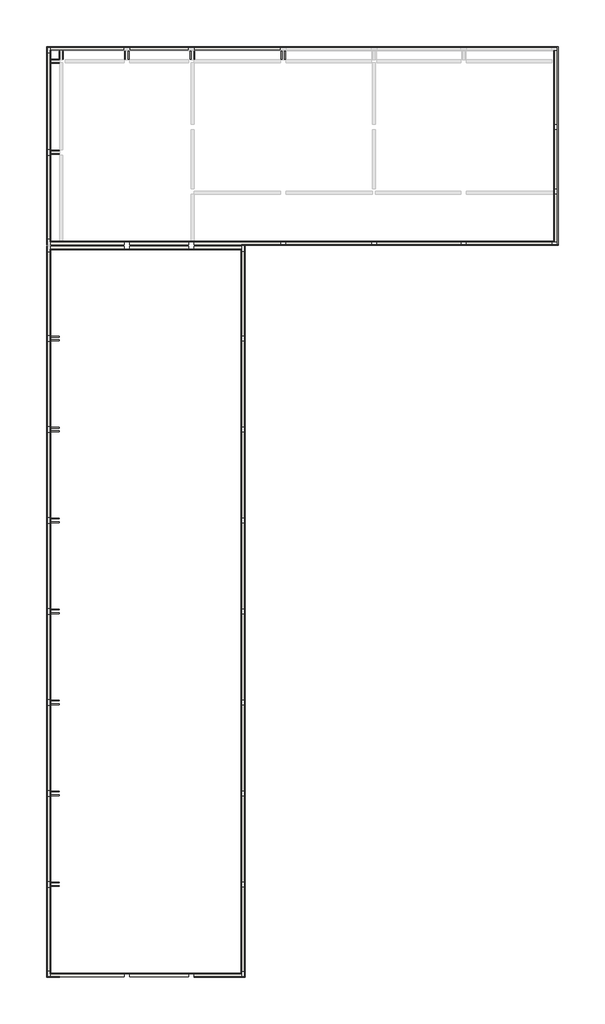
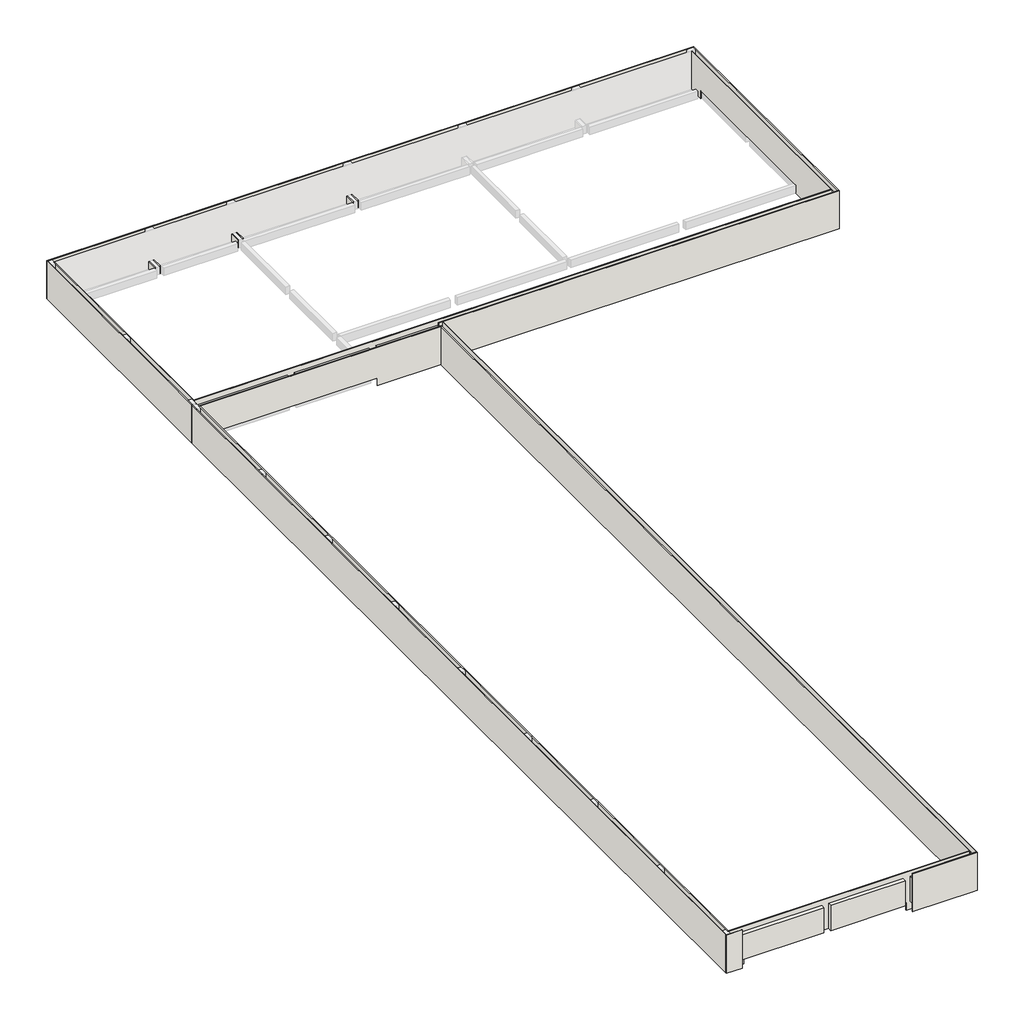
# One storey, part 1 of 2: 77 walls.
"""IFC4 building model written with IfcOpenShell, lengths in millimetres."""

from ifc_helpers import new_model, si_unit, frame, origin, place, context, project, spatial, polyline, outline, extrude, faceted_brep, element, save

model = new_model("IFC4")

# Units and contexts
model_context = context("Model", 3, world=origin())
ifc_project = project(units=[si_unit("LENGTHUNIT", "METRE", prefix="MILLI")], contexts=[model_context])

# Site, building, storey
site = spatial("IfcSite", under=ifc_project)
building = spatial("IfcBuilding", under=site)
storey = spatial("IfcBuildingStorey", under=building, Name="NÍVEL 2", Elevation=3143.4413576)

# Walls
placement = place(None, origin())
element("IfcWall", 1, ObjectType="PARE.ALVE ALVENARIA DE BLOCOS CERÂMICOS FURADOS NA HORIZONTAL 14X9X19", at=placement, inside=storey, context=model_context, shape_type="SweptSolid", body=[
    extrude(outline(polyline([(5972.3574069, 7802.0719642), (2472.3574069, 7802.0719642), (2472.3574069, 7942.0719642), (5972.3574069, 7942.0719642), (5972.3574069, 7802.0719642)])), frame((0.0, 0.0, 3143.4413576), z_axis=(0.0, 0.0, 1.0), x_axis=(1.0, 0.0, 0.0)), (0.0, 0.0, 1.0), 1000.0),
])
element("IfcWall", 2, ObjectType="PARE.ALVE ALVENARIA DE BLOCOS CERÂMICOS FURADOS NA HORIZONTAL 14X9X19", at=placement, inside=storey, context=model_context, shape_type="SweptSolid", body=[
    extrude(outline(polyline([(9012.3574069, 7802.0719642), (6232.3574069, 7802.0719642), (6232.3574069, 7942.0719642), (9012.3574069, 7942.0719642), (9012.3574069, 7802.0719642)])), frame((0.0, 0.0, 3143.4413576), z_axis=(0.0, 0.0, 1.0), x_axis=(1.0, 0.0, 0.0)), (0.0, 0.0, 1.0), 1000.0),
])
element("IfcWall", 3, ObjectType="PARE.ALVE ALVENARIA DE BLOCOS CERÂMICOS FURADOS NA HORIZONTAL 14X9X19", at=placement, inside=storey, context=model_context, shape_type="Brep", body=[
    faceted_brep([(9272.3574069, 7802.0719642, 3143.4413576), (11502.3574069, 7802.0719642, 3143.4413576), (11517.3574069, 7802.0719642, 3143.4413576), (11517.3574069, 7802.0719642, 4143.4413576), (11502.3574069, 7802.0719642, 4143.4413576), (9272.3574069, 7802.0719642, 4143.4413576), (9272.3574069, 7942.0719642, 3143.4413576), (9272.3574069, 7942.0719642, 4143.4413576), (11517.3574069, 7942.0719642, 4143.4413576), (11517.3574069, 7942.0719642, 3143.4413576)], [[[0, 1, 2, 3, 4, 5]], [[6, 7, 8, 9]], [[2, 1, 0, 6, 9]], [[3, 2, 9, 8]], [[5, 4, 3, 8, 7]], [[0, 5, 7, 6]]]),
])
element("IfcWall", 4, ObjectType="PARE.ALVE ALVENARIA DE BLOCOS CERÂMICOS FURADOS NA HORIZONTAL 14X9X19", at=placement, inside=storey, context=model_context, shape_type="SweptSolid", body=[
    extrude(outline(polyline([(11532.3574069, 3702.0719642), (11532.3574069, 7667.0719642), (11672.3574069, 7667.0719642), (11672.3574069, 3702.0719642), (11532.3574069, 3702.0719642)])), frame((0.0, 0.0, 3143.4413576), z_axis=(0.0, 0.0, 1.0), x_axis=(1.0, 0.0, 0.0)), (0.0, 0.0, 1.0), 1000.0),
])
element("IfcWall", 5, ObjectType="PARE.ALVE ALVENARIA DE BLOCOS CERÂMICOS FURADOS NA HORIZONTAL 14X9X19", at=placement, inside=storey, context=model_context, shape_type="SweptSolid", body=[
    extrude(outline(polyline([(11532.3574069, -597.9280358), (11532.3574069, 3442.0719642), (11672.3574069, 3442.0719642), (11672.3574069, -597.9280358), (11532.3574069, -597.9280358)])), frame((0.0, 0.0, 3143.4413576), z_axis=(0.0, 0.0, 1.0), x_axis=(1.0, 0.0, 0.0)), (0.0, 0.0, 1.0), 1000.0),
])
element("IfcWall", 6, ObjectType="PARE.ALVE ALVENARIA DE BLOCOS CERÂMICOS FURADOS NA HORIZONTAL 14X9X19", at=placement, inside=storey, context=model_context, shape_type="SweptSolid", body=[
    extrude(outline(polyline([(11532.3574069, -4897.9280358), (11532.3574069, -857.9280358), (11672.3574069, -857.9280358), (11672.3574069, -4897.9280358), (11532.3574069, -4897.9280358)])), frame((0.0, 0.0, 3143.4413576), z_axis=(0.0, 0.0, 1.0), x_axis=(1.0, 0.0, 0.0)), (0.0, 0.0, 1.0), 1000.0),
])
element("IfcWall", 7, ObjectType="PARE.ALVE ALVENARIA DE BLOCOS CERÂMICOS FURADOS NA HORIZONTAL 14X9X19", at=placement, inside=storey, context=model_context, shape_type="SweptSolid", body=[
    extrude(outline(polyline([(11672.3574069, -5157.9280358), (11672.3574069, -9197.9280358), (11532.3574069, -9197.9280358), (11532.3574069, -5157.9280358), (11672.3574069, -5157.9280358)])), frame((0.0, 0.0, 3143.4413576), z_axis=(0.0, 0.0, 1.0), x_axis=(1.0, 0.0, 0.0)), (0.0, 0.0, 1.0), 1000.0),
])
element("IfcWall", 8, ObjectType="PARE.ALVE ALVENARIA DE BLOCOS CERÂMICOS FURADOS NA HORIZONTAL 14X9X19", at=placement, inside=storey, context=model_context, shape_type="SweptSolid", body=[
    extrude(outline(polyline([(11532.3574069, -13497.9280358), (11532.3574069, -9457.9280358), (11672.3574069, -9457.9280358), (11672.3574069, -13497.9280358), (11532.3574069, -13497.9280358)])), frame((0.0, 0.0, 3143.4413576), z_axis=(0.0, 0.0, 1.0), x_axis=(1.0, 0.0, 0.0)), (0.0, 0.0, 1.0), 1000.0),
])
element("IfcWall", 9, ObjectType="PARE.ALVE ALVENARIA DE BLOCOS CERÂMICOS FURADOS NA HORIZONTAL 14X9X19", at=placement, inside=storey, context=model_context, shape_type="SweptSolid", body=[
    extrude(outline(polyline([(11532.3574069, -17797.9280358), (11532.3574069, -13757.9280358), (11672.3574069, -13757.9280358), (11672.3574069, -17797.9280358), (11532.3574069, -17797.9280358)])), frame((0.0, 0.0, 3143.4413576), z_axis=(0.0, 0.0, 1.0), x_axis=(1.0, 0.0, 0.0)), (0.0, 0.0, 1.0), 1000.0),
])
element("IfcWall", 10, ObjectType="PARE.ALVE ALVENARIA DE BLOCOS CERÂMICOS FURADOS NA HORIZONTAL 14X9X19", at=placement, inside=storey, context=model_context, shape_type="SweptSolid", body=[
    extrude(outline(polyline([(11672.3574069, -18057.9280358), (11672.3574069, -22097.9280358), (11532.3574069, -22097.9280358), (11532.3574069, -18057.9280358), (11672.3574069, -18057.9280358)])), frame((0.0, 0.0, 3143.4413576), z_axis=(0.0, 0.0, 1.0), x_axis=(1.0, 0.0, 0.0)), (0.0, 0.0, 1.0), 1000.0),
])
element("IfcWall", 11, ObjectType="PARE.ALVE ALVENARIA DE BLOCOS CERÂMICOS FURADOS NA HORIZONTAL 14X9X19", at=placement, inside=storey, context=model_context, shape_type="SweptSolid", body=[
    extrude(outline(polyline([(11532.3574069, -26337.9280358), (11532.3574069, -22357.9280358), (11672.3574069, -22357.9280358), (11672.3574069, -26337.9280358), (11532.3574069, -26337.9280358)])), frame((0.0, 0.0, 3143.4413576), z_axis=(0.0, 0.0, 1.0), x_axis=(1.0, 0.0, 0.0)), (0.0, 0.0, 1.0), 1000.0),
])
element("IfcWall", 12, ObjectType="PARE.ALVE ALVENARIA DE BLOCOS CERÂMICOS FURADOS NA HORIZONTAL 14X9X19", at=placement, inside=storey, context=model_context, shape_type="SweptSolid", body=[
    extrude(outline(polyline([(9287.3574069, -26457.9280358), (11532.3574069, -26457.9280358), (11532.3574069, -26597.9280358), (9287.3574069, -26597.9280358), (9287.3574069, -26457.9280358)])), frame((0.0, 0.0, 3143.4413576), z_axis=(0.0, 0.0, 1.0), x_axis=(1.0, 0.0, 0.0)), (0.0, 0.0, 1.0), 1000.0),
])
element("IfcWall", 13, ObjectType="PARE.ALVE ALVENARIA DE BLOCOS CERÂMICOS FURADOS NA HORIZONTAL 14X9X19", at=placement, inside=storey, context=model_context, shape_type="SweptSolid", body=[
    extrude(outline(polyline([(6232.3574069, -26457.9280358), (9012.3574069, -26457.9280358), (9012.3574069, -26597.9280358), (6232.3574069, -26597.9280358), (6232.3574069, -26457.9280358)])), frame((0.0, 0.0, 3143.4413576), z_axis=(0.0, 0.0, 1.0), x_axis=(1.0, 0.0, 0.0)), (0.0, 0.0, 1.0), 1000.0),
])
element("IfcWall", 14, ObjectType="PARE.ALVE ALVENARIA DE BLOCOS CERÂMICOS FURADOS NA HORIZONTAL 14X9X19", at=placement, inside=storey, context=model_context, shape_type="SweptSolid", body=[
    extrude(outline(polyline([(2472.3574069, -26457.9280358), (5972.3574069, -26457.9280358), (5972.3574069, -26597.9280358), (2472.3574069, -26597.9280358), (2472.3574069, -26457.9280358)])), frame((0.0, 0.0, 3143.4413576), z_axis=(0.0, 0.0, 1.0), x_axis=(1.0, 0.0, 0.0)), (0.0, 0.0, 1.0), 1000.0),
])
element("IfcWall", 15, ObjectType="PARE.ALVE ALVENARIA DE BLOCOS CERÂMICOS FURADOS NA HORIZONTAL 14X9X19", at=placement, inside=storey, context=model_context, shape_type="SweptSolid", body=[
    extrude(outline(polyline([(2472.3574069, -22357.9280358), (2472.3574069, -26337.9280358), (2332.3574069, -26337.9280358), (2332.3574069, -22357.9280358), (2472.3574069, -22357.9280358)])), frame((0.0, 0.0, 3143.4413576), z_axis=(0.0, 0.0, 1.0), x_axis=(1.0, 0.0, 0.0)), (0.0, 0.0, 1.0), 1000.0),
])
element("IfcWall", 16, ObjectType="PARE.ALVE ALVENARIA DE BLOCOS CERÂMICOS FURADOS NA HORIZONTAL 14X9X19", at=placement, inside=storey, context=model_context, shape_type="SweptSolid", body=[
    extrude(outline(polyline([(2472.3574069, -18057.9280358), (2472.3574069, -22097.9280358), (2332.3574069, -22097.9280358), (2332.3574069, -18057.9280358), (2472.3574069, -18057.9280358)])), frame((0.0, 0.0, 3143.4413576), z_axis=(0.0, 0.0, 1.0), x_axis=(1.0, 0.0, 0.0)), (0.0, 0.0, 1.0), 1000.0),
])
element("IfcWall", 17, ObjectType="PARE.ALVE ALVENARIA DE BLOCOS CERÂMICOS FURADOS NA HORIZONTAL 14X9X19", at=placement, inside=storey, context=model_context, shape_type="SweptSolid", body=[
    extrude(outline(polyline([(2472.3574069, -13757.9280358), (2472.3574069, -17797.9280358), (2332.3574069, -17797.9280358), (2332.3574069, -13757.9280358), (2472.3574069, -13757.9280358)])), frame((0.0, 0.0, 3143.4413576), z_axis=(0.0, 0.0, 1.0), x_axis=(1.0, 0.0, 0.0)), (0.0, 0.0, 1.0), 1000.0),
])
element("IfcWall", 18, ObjectType="PARE.ALVE ALVENARIA DE BLOCOS CERÂMICOS FURADOS NA HORIZONTAL 14X9X19", at=placement, inside=storey, context=model_context, shape_type="SweptSolid", body=[
    extrude(outline(polyline([(2472.3574069, -9457.9280358), (2472.3574069, -13497.9280358), (2332.3574069, -13497.9280358), (2332.3574069, -9457.9280358), (2472.3574069, -9457.9280358)])), frame((0.0, 0.0, 3143.4413576), z_axis=(0.0, 0.0, 1.0), x_axis=(1.0, 0.0, 0.0)), (0.0, 0.0, 1.0), 1000.0),
])
element("IfcWall", 19, ObjectType="PARE.ALVE ALVENARIA DE BLOCOS CERÂMICOS FURADOS NA HORIZONTAL 14X9X19", at=placement, inside=storey, context=model_context, shape_type="SweptSolid", body=[
    extrude(outline(polyline([(2472.3574069, -5157.9280358), (2472.3574069, -9197.9280358), (2332.3574069, -9197.9280358), (2332.3574069, -5157.9280358), (2472.3574069, -5157.9280358)])), frame((0.0, 0.0, 3143.4413576), z_axis=(0.0, 0.0, 1.0), x_axis=(1.0, 0.0, 0.0)), (0.0, 0.0, 1.0), 1000.0),
])
element("IfcWall", 20, ObjectType="PARE.ALVE ALVENARIA DE BLOCOS CERÂMICOS FURADOS NA HORIZONTAL 14X9X19", at=placement, inside=storey, context=model_context, shape_type="SweptSolid", body=[
    extrude(outline(polyline([(2472.3574069, -857.9280358), (2472.3574069, -4897.9280358), (2332.3574069, -4897.9280358), (2332.3574069, -857.9280358), (2472.3574069, -857.9280358)])), frame((0.0, 0.0, 3143.4413576), z_axis=(0.0, 0.0, 1.0), x_axis=(1.0, 0.0, 0.0)), (0.0, 0.0, 1.0), 1000.0),
])
element("IfcWall", 21, ObjectType="PARE.ALVE ALVENARIA DE BLOCOS CERÂMICOS FURADOS NA HORIZONTAL 14X9X19", at=placement, inside=storey, context=model_context, shape_type="SweptSolid", body=[
    extrude(outline(polyline([(2472.3574069, 3442.0719642), (2472.3574069, -597.9280358), (2332.3574069, -597.9280358), (2332.3574069, 3442.0719642), (2472.3574069, 3442.0719642)])), frame((0.0, 0.0, 3143.4413576), z_axis=(0.0, 0.0, 1.0), x_axis=(1.0, 0.0, 0.0)), (0.0, 0.0, 1.0), 1000.0),
])
element("IfcWall", 22, ObjectType="PARE.ALVE ALVENARIA DE BLOCOS CERÂMICOS FURADOS NA HORIZONTAL 14X9X19", at=placement, inside=storey, context=model_context, shape_type="SweptSolid", body=[
    extrude(outline(polyline([(2472.3574069, 7682.0719642), (2472.3574069, 3702.0719642), (2332.3574069, 3702.0719642), (2332.3574069, 7682.0719642), (2472.3574069, 7682.0719642)])), frame((0.0, 0.0, 3143.4413576), z_axis=(0.0, 0.0, 1.0), x_axis=(1.0, 0.0, 0.0)), (0.0, 0.0, 1.0), 1000.0),
])
element("IfcWall", 23, ObjectType="MASSA ÚNICA SARRAFEADA PARA ACRILICO", at=placement, inside=storey, context=model_context, shape_type="Brep", body=[
    faceted_brep([(2502.3574069, -26457.9280358, 2843.4413576), (2502.3574069, -26427.9280358, 2843.4413576), (2502.3574069, -22327.9280358, 2843.4413576), (2502.3574069, -22297.9280358, 2843.4413576), (2502.3574069, -22157.9280358, 2843.4413576), (2502.3574069, -22127.9280358, 2843.4413576), (2502.3574069, -18027.9280358, 2843.4413576), (2502.3574069, -17997.9280358, 2843.4413576), (2502.3574069, -17857.9280358, 2843.4413576), (2502.3574069, -17827.9280358, 2843.4413576), (2502.3574069, -13727.9280358, 2843.4413576), (2502.3574069, -13697.9280358, 2843.4413576), (2502.3574069, -13557.9280358, 2843.4413576), (2502.3574069, -13527.9280358, 2843.4413576), (2502.3574069, -9427.9280358, 2843.4413576), (2502.3574069, -9397.9280358, 2843.4413576), (2502.3574069, -9257.9280358, 2843.4413576), (2502.3574069, -9227.9280358, 2843.4413576), (2502.3574069, -5127.9280358, 2843.4413576), (2502.3574069, -5097.9280358, 2843.4413576), (2502.3574069, -4957.9280358, 2843.4413576), (2502.3574069, -4927.9280358, 2843.4413576), (2502.3574069, -827.9280358, 2843.4413576), (2502.3574069, -797.9280358, 2843.4413576), (2502.3574069, -657.9280358, 2843.4413576), (2502.3574069, -627.9280358, 2843.4413576), (2502.3574069, 3472.0719642, 2843.4413576), (2502.3574069, 3502.0719642, 2843.4413576), (2502.3574069, 3642.0719642, 2843.4413576), (2502.3574069, 3672.0719642, 2843.4413576), (2502.3574069, 7772.0719642, 2843.4413576), (2502.3574069, 7802.0719642, 2843.4413576), (2502.3574069, 7802.0719642, 4343.4413576), (2502.3574069, 7772.0719642, 4343.4413576), (2502.3574069, -26427.9280358, 4343.4413576), (2502.3574069, -26457.9280358, 4343.4413576), (2472.3574069, -26457.9280358, 2843.4413576), (2472.3574069, -26457.9280358, 3143.4413576), (2472.3574069, -26457.9280358, 4143.4413576), (2472.3574069, -26457.9280358, 4343.4413576), (2472.3574069, 7802.0719642, 4343.4413576), (2472.3574069, 7802.0719642, 4143.4413576), (2472.3574069, 7802.0719642, 3143.4413576), (2472.3574069, 7802.0719642, 2843.4413576)], [[[0, 1, 2, 3, 4, 5, 6, 7, 8, 9, 10, 11, 12, 13, 14, 15, 16, 17, 18, 19, 20, 21, 22, 23, 24, 25, 26, 27, 28, 29, 30, 31, 32, 33, 34, 35]], [[36, 37, 38, 39, 40, 41, 42, 43]], [[31, 30, 29, 28, 27, 26, 25, 24, 23, 22, 21, 20, 19, 18, 17, 16, 15, 14, 13, 12, 11, 10, 9, 8, 7, 6, 5, 4, 3, 2, 1, 0, 36, 43]], [[35, 34, 33, 32, 40, 39]], [[0, 35, 39, 38, 37, 36]], [[32, 31, 43, 42, 41, 40]]]),
])
element("IfcWall", 24, ObjectType="MASSA ÚNICA SARRAFEADA PARA ACRILICO", at=placement, inside=storey, context=model_context, shape_type="Brep", body=[
    faceted_brep([(11532.3574069, 7772.0719642, 4343.4413576), (11502.3574069, 7772.0719642, 4343.4413576), (2502.3574069, 7772.0719642, 4343.4413576), (2502.3574069, 7772.0719642, 2843.4413576), (3072.3574069, 7772.0719642, 2843.4413576), (3072.3574069, 7772.0719642, 3143.4413576), (9132.3574069, 7772.0719642, 3143.4413576), (9132.3574069, 7772.0719642, 2843.4413576), (11502.3574069, 7772.0719642, 2843.4413576), (11532.3574069, 7772.0719642, 2843.4413576), (11532.3574069, 7772.0719642, 3143.4413576), (11517.3574069, 7772.0719642, 3143.4413576), (11517.3574069, 7772.0719642, 4143.4413576), (11532.3574069, 7772.0719642, 4143.4413576), (2502.3574069, 7802.0719642, 4343.4413576), (11532.3574069, 7802.0719642, 4343.4413576), (11532.3574069, 7802.0719642, 4143.4413576), (11517.3574069, 7802.0719642, 4143.4413576), (11517.3574069, 7802.0719642, 3143.4413576), (11532.3574069, 7802.0719642, 3143.4413576), (11532.3574069, 7802.0719642, 2843.4413576), (9132.3574069, 7802.0719642, 2843.4413576), (9132.3574069, 7802.0719642, 3143.4413576), (3072.3574069, 7802.0719642, 3143.4413576), (3072.3574069, 7802.0719642, 2843.4413576), (2502.3574069, 7802.0719642, 2843.4413576)], [[[0, 1, 2, 3, 4, 5, 6, 7, 8, 9, 10, 11, 12, 13]], [[14, 15, 16, 17, 18, 19, 20, 21, 22, 23, 24, 25]], [[3, 25, 24, 4]], [[20, 9, 8, 7, 21]], [[2, 1, 0, 15, 14]], [[3, 2, 14, 25]], [[18, 11, 10, 19]], [[10, 9, 20, 19]], [[11, 18, 17, 12]], [[13, 12, 17, 16]], [[15, 0, 13, 16]], [[23, 5, 4, 24]], [[5, 23, 22, 6]], [[6, 22, 21, 7]]]),
])
element("IfcWall", 25, ObjectType="MASSA ÚNICA SARRAFEADA PARA ACRILICO", at=placement, inside=storey, context=model_context, shape_type="Brep", body=[
    faceted_brep([(11502.3574069, 7772.0719642, 2843.4413576), (11502.3574069, -26427.9280358, 2843.4413576), (11502.3574069, -26457.9280358, 2843.4413576), (11502.3574069, -26457.9280358, 4343.4413576), (11502.3574069, -26427.9280358, 4343.4413576), (11502.3574069, 7772.0719642, 4343.4413576), (11502.3574069, 7772.0719642, 4143.4413576), (11502.3574069, 7802.0719642, 4143.4413576), (11502.3574069, 7802.0719642, 3143.4413576), (11502.3574069, 7772.0719642, 3143.4413576), (11532.3574069, 7772.0719642, 2843.4413576), (11532.3574069, 7772.0719642, 3143.4413576), (11532.3574069, 7802.0719642, 3143.4413576), (11532.3574069, 7802.0719642, 4143.4413576), (11532.3574069, 7772.0719642, 4143.4413576), (11532.3574069, 7772.0719642, 4343.4413576), (11532.3574069, -26457.9280358, 4343.4413576), (11532.3574069, -26457.9280358, 4143.4413576), (11532.3574069, -26457.9280358, 3143.4413576), (11532.3574069, -26457.9280358, 2843.4413576), (11517.3574069, 7802.0719642, 3143.4413576), (11517.3574069, 7772.0719642, 3143.4413576), (11517.3574069, 7772.0719642, 4143.4413576), (11517.3574069, 7802.0719642, 4143.4413576)], [[[0, 1, 2, 3, 4, 5, 6, 7, 8, 9]], [[10, 11, 12, 13, 14, 15, 16, 17, 18, 19]], [[2, 1, 0, 10, 19]], [[5, 4, 3, 16, 15]], [[3, 2, 19, 18, 17, 16]], [[8, 20, 12, 11, 21, 9]], [[0, 9, 21, 11, 10]], [[6, 22, 14, 13, 23, 7]], [[8, 7, 23, 13, 12, 20]], [[6, 5, 15, 14, 22]]]),
])
element("IfcWall", 26, ObjectType="MASSA ÚNICA SARRAFEADA PARA ACRILICO", at=placement, inside=storey, context=model_context, shape_type="SweptSolid", body=[
    extrude(outline(polyline([(4343.4413576, 11502.3574069), (4343.4413576, 2502.3574069), (2843.4413576, 2502.3574069), (2843.4413576, 3072.3574069), (3143.4413576, 3072.3574069), (3143.4413576, 9132.3574069), (2843.4413576, 9132.3574069), (2843.4413576, 11502.3574069), (4343.4413576, 11502.3574069)])), frame((0.0, -26457.9280358, 0.0), z_axis=(0.0, 1.0, 0.0), x_axis=(0.0, 0.0, 1.0)), (0.0, 0.0, 1.0), 30.0),
])
element("IfcWall", 27, ObjectType="MASSA ÚNICA SARRAFEADA PARA ACRILICO", at=placement, inside=storey, context=model_context, shape_type="Brep", body=[
    faceted_brep([(9287.3574069, -26627.9280358, 4343.4413576), (9287.3574069, -26627.9280358, 2843.4413576), (9302.3574069, -26627.9280358, 2843.4413576), (11532.3574069, -26627.9280358, 2843.4413576), (11672.3574069, -26627.9280358, 2843.4413576), (11702.3574069, -26627.9280358, 2843.4413576), (11702.3574069, -26627.9280358, 4343.4413576), (9287.3574069, -26597.9280358, 2843.4413576), (9287.3574069, -26597.9280358, 4343.4413576), (11672.3574069, -26597.9280358, 4343.4413576), (11702.3574069, -26597.9280358, 4343.4413576), (11702.3574069, -26597.9280358, 2843.4413576), (11672.3574069, -26597.9280358, 2843.4413576), (11532.3574069, -26597.9280358, 2843.4413576), (9302.3574069, -26597.9280358, 2843.4413576)], [[[0, 1, 2, 3, 4, 5, 6]], [[7, 8, 9, 10, 11, 12, 13, 14]], [[5, 4, 3, 2, 1, 7, 14, 13, 12, 11]], [[0, 6, 10, 9, 8]], [[0, 8, 7, 1]], [[6, 5, 11, 10]]]),
])
element("IfcWall", 28, ObjectType="MASSA ÚNICA SARRAFEADA PARA ACRILICO", at=placement, inside=storey, context=model_context, shape_type="Brep", body=[
    faceted_brep([(2302.3574069, -26627.9280358, 2843.4413576), (2902.3574069, -26627.9280358, 2843.4413576), (2917.3574069, -26627.9280358, 2843.4413576), (2917.3574069, -26627.9280358, 4343.4413576), (2302.3574069, -26627.9280358, 4343.4413576), (2302.3574069, -26597.9280358, 2843.4413576), (2302.3574069, -26597.9280358, 4343.4413576), (2332.3574069, -26597.9280358, 4343.4413576), (2917.3574069, -26597.9280358, 4343.4413576), (2917.3574069, -26597.9280358, 2843.4413576), (2902.3574069, -26597.9280358, 2843.4413576), (2332.3574069, -26597.9280358, 2843.4413576)], [[[0, 1, 2, 3, 4]], [[5, 6, 7, 8, 9, 10, 11]], [[2, 1, 0, 5, 11, 10, 9]], [[4, 3, 8, 7, 6]], [[0, 4, 6, 5]], [[2, 9, 8, 3]]]),
])
element("IfcWall", 29, ObjectType="MASSA ÚNICA SARRAFEADA PARA ACRILICO", at=placement, inside=storey, context=model_context, shape_type="SweptSolid", body=[
    extrude(outline(polyline([(2302.3574069, -26597.9280358), (2302.3574069, 7942.0719642), (2332.3574069, 7942.0719642), (2332.3574069, -26597.9280358), (2302.3574069, -26597.9280358)])), frame((0.0, 0.0, 2843.4413576), z_axis=(0.0, 0.0, 1.0), x_axis=(1.0, 0.0, 0.0)), (0.0, 0.0, 1.0), 1500.0),
])
element("IfcWall", 30, ObjectType="MASSA ÚNICA SARRAFEADA PARA ACRILICO", at=placement, inside=storey, context=model_context, shape_type="Brep", body=[
    faceted_brep([(11702.3574069, -26597.9280358, 2843.4413576), (11702.3574069, -26337.9280358, 2843.4413576), (11702.3574069, 7957.0719642, 2843.4413576), (11702.3574069, 7957.0719642, 4343.4413576), (11702.3574069, -26597.9280358, 4343.4413576), (11672.3574069, -26597.9280358, 2843.4413576), (11672.3574069, -26597.9280358, 4343.4413576), (11672.3574069, 7957.0719642, 4343.4413576), (11672.3574069, 7957.0719642, 2843.4413576), (11672.3574069, -26337.9280358, 2843.4413576)], [[[0, 1, 2, 3, 4]], [[5, 6, 7, 8, 9]], [[2, 1, 0, 5, 9, 8]], [[3, 2, 8, 7]], [[4, 3, 7, 6]], [[0, 4, 6, 5]]]),
])
element("IfcWall", 31, ObjectType="PARE.ALVE ALVENARIA DE BLOCOS CERÂMICOS FURADOS NA HORIZONTAL 14X9X19", at=placement, inside=storey, context=model_context, shape_type="SweptSolid", body=[
    extrude(outline(polyline([(2472.3574069, 17342.0719642), (5972.3574069, 17342.0719642), (5972.3574069, 17202.0719642), (2472.3574069, 17202.0719642), (2472.3574069, 17342.0719642)])), frame((0.0, 0.0, 3143.4413576), z_axis=(0.0, 0.0, 1.0), x_axis=(1.0, 0.0, 0.0)), (0.0, 0.0, 1.0), 1000.0),
])
element("IfcWall", 32, ObjectType="PARE.ALVE ALVENARIA DE BLOCOS CERÂMICOS FURADOS NA HORIZONTAL 14X9X19", at=placement, inside=storey, context=model_context, shape_type="SweptSolid", body=[
    extrude(outline(polyline([(9012.3574069, 17202.0719642), (6232.3574069, 17202.0719642), (6232.3574069, 17342.0719642), (9012.3574069, 17342.0719642), (9012.3574069, 17202.0719642)])), frame((0.0, 0.0, 3143.4413576), z_axis=(0.0, 0.0, 1.0), x_axis=(1.0, 0.0, 0.0)), (0.0, 0.0, 1.0), 1000.0),
])
element("IfcWall", 33, ObjectType="PARE.ALVE ALVENARIA DE BLOCOS CERÂMICOS FURADOS NA HORIZONTAL 14X9X19", at=placement, inside=storey, context=model_context, shape_type="SweptSolid", body=[
    extrude(outline(polyline([(13372.3574069, 17202.0719642), (9272.3574069, 17202.0719642), (9272.3574069, 17342.0719642), (13372.3574069, 17342.0719642), (13372.3574069, 17202.0719642)])), frame((0.0, 0.0, 3143.4413576), z_axis=(0.0, 0.0, 1.0), x_axis=(1.0, 0.0, 0.0)), (0.0, 0.0, 1.0), 1000.0),
])
element("IfcWall", 34, ObjectType="PARE.ALVE ALVENARIA DE BLOCOS CERÂMICOS FURADOS NA HORIZONTAL 14X9X19", at=placement, inside=storey, context=model_context, shape_type="SweptSolid", body=[
    extrude(outline(polyline([(26472.3574069, 17272.0719642), (26472.3574069, 13702.0719642), (26332.3574069, 13702.0719642), (26332.3574069, 17272.0719642), (26472.3574069, 17272.0719642)])), frame((0.0, 0.0, 3143.4413576), z_axis=(0.0, 0.0, 1.0), x_axis=(1.0, 0.0, 0.0)), (0.0, 0.0, 1.0), 1000.0),
])
element("IfcWall", 35, ObjectType="PARE.ALVE ALVENARIA DE BLOCOS CERÂMICOS FURADOS NA HORIZONTAL 14X9X19", at=placement, inside=storey, context=model_context, shape_type="SweptSolid", body=[
    extrude(outline(polyline([(26332.3574069, 10662.0719642), (26332.3574069, 13442.0719642), (26472.3574069, 13442.0719642), (26472.3574069, 10662.0719642), (26332.3574069, 10662.0719642)])), frame((0.0, 0.0, 3143.4413576), z_axis=(0.0, 0.0, 1.0), x_axis=(1.0, 0.0, 0.0)), (0.0, 0.0, 1.0), 1000.0),
])
element("IfcWall", 36, ObjectType="PARE.ALVE ALVENARIA DE BLOCOS CERÂMICOS FURADOS NA HORIZONTAL 14X9X19", at=placement, inside=storey, context=model_context, shape_type="SweptSolid", body=[
    extrude(outline(polyline([(26332.3574069, 8142.0719642), (26332.3574069, 10402.0719642), (26472.3574069, 10402.0719642), (26472.3574069, 8142.0719642), (26332.3574069, 8142.0719642)])), frame((0.0, 0.0, 3143.4413576), z_axis=(0.0, 0.0, 1.0), x_axis=(1.0, 0.0, 0.0)), (0.0, 0.0, 1.0), 1000.0),
])
element("IfcWall", 37, ObjectType="PARE.ALVE ALVENARIA DE BLOCOS CERÂMICOS FURADOS NA HORIZONTAL 14X9X19", at=placement, inside=storey, context=model_context, shape_type="SweptSolid", body=[
    extrude(outline(polyline([(26212.3574069, 8002.0719642), (22172.3574069, 8002.0719642), (22172.3574069, 8142.0719642), (26212.3574069, 8142.0719642), (26212.3574069, 8002.0719642)])), frame((0.0, 0.0, 3143.4413576), z_axis=(0.0, 0.0, 1.0), x_axis=(1.0, 0.0, 0.0)), (0.0, 0.0, 1.0), 1000.0),
])
element("IfcWall", 38, ObjectType="PARE.ALVE ALVENARIA DE BLOCOS CERÂMICOS FURADOS NA HORIZONTAL 14X9X19", at=placement, inside=storey, context=model_context, shape_type="SweptSolid", body=[
    extrude(outline(polyline([(17932.3574069, 8142.0719642), (21912.3574069, 8142.0719642), (21912.3574069, 8002.0719642), (17932.3574069, 8002.0719642), (17932.3574069, 8142.0719642)])), frame((0.0, 0.0, 3143.4413576), z_axis=(0.0, 0.0, 1.0), x_axis=(1.0, 0.0, 0.0)), (0.0, 0.0, 1.0), 1000.0),
])
element("IfcWall", 39, ObjectType="PARE.ALVE ALVENARIA DE BLOCOS CERÂMICOS FURADOS NA HORIZONTAL 14X9X19", at=placement, inside=storey, context=model_context, shape_type="SweptSolid", body=[
    extrude(outline(polyline([(13632.3574069, 8142.0719642), (17672.3574069, 8142.0719642), (17672.3574069, 8002.0719642), (13632.3574069, 8002.0719642), (13632.3574069, 8142.0719642)])), frame((0.0, 0.0, 3143.4413576), z_axis=(0.0, 0.0, 1.0), x_axis=(1.0, 0.0, 0.0)), (0.0, 0.0, 1.0), 1000.0),
])
element("IfcWall", 40, ObjectType="PARE.ALVE ALVENARIA DE BLOCOS CERÂMICOS FURADOS NA HORIZONTAL 14X9X19", at=placement, inside=storey, context=model_context, shape_type="SweptSolid", body=[
    extrude(outline(polyline([(9287.3574069, 8142.0719642), (13372.3574069, 8142.0719642), (13372.3574069, 8002.0719642), (9287.3574069, 8002.0719642), (9287.3574069, 8142.0719642)])), frame((0.0, 0.0, 3143.4413576), z_axis=(0.0, 0.0, 1.0), x_axis=(1.0, 0.0, 0.0)), (0.0, 0.0, 1.0), 1000.0),
])
element("IfcWall", 41, ObjectType="PARE.ALVE ALVENARIA DE BLOCOS CERÂMICOS FURADOS NA HORIZONTAL 14X9X19", at=placement, inside=storey, context=model_context, shape_type="SweptSolid", body=[
    extrude(outline(polyline([(6232.3574069, 8142.0719642), (9012.3574069, 8142.0719642), (9012.3574069, 8002.0719642), (6232.3574069, 8002.0719642), (6232.3574069, 8142.0719642)])), frame((0.0, 0.0, 3143.4413576), z_axis=(0.0, 0.0, 1.0), x_axis=(1.0, 0.0, 0.0)), (0.0, 0.0, 1.0), 1000.0),
])
element("IfcWall", 42, ObjectType="PARE.ALVE ALVENARIA DE BLOCOS CERÂMICOS FURADOS NA HORIZONTAL 14X9X19", at=placement, inside=storey, context=model_context, shape_type="SweptSolid", body=[
    extrude(outline(polyline([(2472.3574069, 8142.0719642), (5972.3574069, 8142.0719642), (5972.3574069, 8002.0719642), (2472.3574069, 8002.0719642), (2472.3574069, 8142.0719642)])), frame((0.0, 0.0, 3143.4413576), z_axis=(0.0, 0.0, 1.0), x_axis=(1.0, 0.0, 0.0)), (0.0, 0.0, 1.0), 1000.0),
])
element("IfcWall", 43, ObjectType="PARE.ALVE ALVENARIA DE BLOCOS CERÂMICOS FURADOS NA HORIZONTAL 14X9X19", at=placement, inside=storey, context=model_context, shape_type="SweptSolid", body=[
    extrude(outline(polyline([(2472.3574069, 12242.0719642), (2472.3574069, 8262.0719642), (2332.3574069, 8262.0719642), (2332.3574069, 12242.0719642), (2472.3574069, 12242.0719642)])), frame((0.0, 0.0, 3143.4413576), z_axis=(0.0, 0.0, 1.0), x_axis=(1.0, 0.0, 0.0)), (0.0, 0.0, 1.0), 1000.0),
])
element("IfcWall", 44, ObjectType="PARE.ALVE ALVENARIA DE BLOCOS CERÂMICOS FURADOS NA HORIZONTAL 14X9X19", at=placement, inside=storey, context=model_context, shape_type="SweptSolid", body=[
    extrude(outline(polyline([(2472.3574069, 17082.0719642), (2472.3574069, 12502.0719642), (2332.3574069, 12502.0719642), (2332.3574069, 17082.0719642), (2472.3574069, 17082.0719642)])), frame((0.0, 0.0, 3143.4413576), z_axis=(0.0, 0.0, 1.0), x_axis=(1.0, 0.0, 0.0)), (0.0, 0.0, 1.0), 1000.0),
])
element("IfcWall", 45, ObjectType="MASSA ÚNICA SARRAFEADA PARA ACRILICO", at=placement, inside=storey, context=model_context, shape_type="Brep", body=[
    faceted_brep([(11532.3574069, 7972.0719642, 2843.4413576), (26502.3574069, 7972.0719642, 2843.4413576), (26502.3574069, 7972.0719642, 4343.4413576), (11532.3574069, 7972.0719642, 4343.4413576), (11532.3574069, 8002.0719642, 2843.4413576), (11532.3574069, 8002.0719642, 4343.4413576), (26472.3574069, 8002.0719642, 4343.4413576), (26502.3574069, 8002.0719642, 4343.4413576), (26502.3574069, 8002.0719642, 2843.4413576), (26472.3574069, 8002.0719642, 2843.4413576)], [[[0, 1, 2, 3]], [[4, 5, 6, 7, 8, 9]], [[1, 0, 4, 9, 8]], [[3, 2, 7, 6, 5]], [[0, 3, 5, 4]], [[2, 1, 8, 7]]]),
])
element("IfcWall", 46, ObjectType="MASSA ÚNICA SARRAFEADA PARA ACRILICO", at=placement, inside=storey, context=model_context, shape_type="Brep", body=[
    faceted_brep([(26502.3574069, 8002.0719642, 2843.4413576), (26502.3574069, 17372.0719642, 2843.4413576), (26502.3574069, 17372.0719642, 4343.4413576), (26502.3574069, 8002.0719642, 4343.4413576), (26472.3574069, 8002.0719642, 2843.4413576), (26472.3574069, 8002.0719642, 4343.4413576), (26472.3574069, 17342.0719642, 4343.4413576), (26472.3574069, 17372.0719642, 4343.4413576), (26472.3574069, 17372.0719642, 2843.4413576), (26472.3574069, 17342.0719642, 2843.4413576), (26472.3574069, 10402.0719642, 2843.4413576), (26472.3574069, 10372.0719642, 2843.4413576)], [[[0, 1, 2, 3]], [[4, 5, 6, 7, 8, 9, 10, 11]], [[1, 0, 4, 11, 10, 9, 8]], [[3, 2, 7, 6, 5]], [[0, 3, 5, 4]], [[2, 1, 8, 7]]]),
])
element("IfcWall", 47, ObjectType="MASSA ÚNICA SARRAFEADA PARA ACRILICO", at=placement, inside=storey, context=model_context, shape_type="Brep", body=[
    faceted_brep([(26472.3574069, 17372.0719642, 2843.4413576), (2302.3574069, 17372.0719642, 2843.4413576), (2302.3574069, 17372.0719642, 4343.4413576), (26472.3574069, 17372.0719642, 4343.4413576), (26472.3574069, 17342.0719642, 2843.4413576), (26472.3574069, 17342.0719642, 4343.4413576), (2332.3574069, 17342.0719642, 4343.4413576), (2302.3574069, 17342.0719642, 4343.4413576), (2302.3574069, 17342.0719642, 2843.4413576), (2332.3574069, 17342.0719642, 2843.4413576)], [[[0, 1, 2, 3]], [[4, 5, 6, 7, 8, 9]], [[1, 0, 4, 9, 8]], [[3, 2, 7, 6, 5]], [[0, 3, 5, 4]], [[2, 1, 8, 7]]]),
])
element("IfcWall", 48, ObjectType="MASSA ÚNICA SARRAFEADA PARA ACRILICO", at=placement, inside=storey, context=model_context, shape_type="SweptSolid", body=[
    extrude(outline(polyline([(2302.3574069, 8002.0719642), (2302.3574069, 17342.0719642), (2332.3574069, 17342.0719642), (2332.3574069, 8002.0719642), (2302.3574069, 8002.0719642)])), frame((0.0, 0.0, 2843.4413576), z_axis=(0.0, 0.0, 1.0), x_axis=(1.0, 0.0, 0.0)), (0.0, 0.0, 1.0), 1500.0),
])
element("IfcWall", 49, ObjectType="MASSA ÚNICA SARRAFEADA PARA ACRILICO", at=placement, inside=storey, context=model_context, shape_type="Brep", body=[
    faceted_brep([(2502.3574069, 8142.0719642, 2843.4413576), (2502.3574069, 8172.0719642, 2843.4413576), (2502.3574069, 12272.0719642, 2843.4413576), (2502.3574069, 12302.0719642, 2843.4413576), (2502.3574069, 12442.0719642, 2843.4413576), (2502.3574069, 12472.0719642, 2843.4413576), (2502.3574069, 16572.0719642, 2843.4413576), (2502.3574069, 16602.0719642, 2843.4413576), (2502.3574069, 16742.0719642, 2843.4413576), (2502.3574069, 16772.0719642, 2843.4413576), (2502.3574069, 17172.0719642, 2843.4413576), (2502.3574069, 17202.0719642, 2843.4413576), (2502.3574069, 17202.0719642, 4343.4413576), (2502.3574069, 17172.0719642, 4343.4413576), (2502.3574069, 8172.0719642, 4343.4413576), (2502.3574069, 8142.0719642, 4343.4413576), (2472.3574069, 8142.0719642, 2843.4413576), (2472.3574069, 8142.0719642, 3143.4413576), (2472.3574069, 8142.0719642, 4143.4413576), (2472.3574069, 8142.0719642, 4343.4413576), (2472.3574069, 17202.0719642, 4343.4413576), (2472.3574069, 17202.0719642, 4143.4413576), (2472.3574069, 17202.0719642, 3143.4413576), (2472.3574069, 17202.0719642, 2843.4413576)], [[[0, 1, 2, 3, 4, 5, 6, 7, 8, 9, 10, 11, 12, 13, 14, 15]], [[16, 17, 18, 19, 20, 21, 22, 23]], [[11, 10, 9, 8, 7, 6, 5, 4, 3, 2, 1, 0, 16, 23]], [[15, 14, 13, 12, 20, 19]], [[0, 15, 19, 18, 17, 16]], [[12, 11, 23, 22, 21, 20]]]),
])
element("IfcWall", 50, ObjectType="MASSA ÚNICA SARRAFEADA PARA ACRILICO", at=placement, inside=storey, context=model_context, shape_type="SweptSolid", body=[
    extrude(outline(polyline([(8172.0719642, 4343.4413576), (17172.0719642, 4343.4413576), (17172.0719642, 2843.4413576), (16572.0719642, 2843.4413576), (16572.0719642, 3143.4413576), (10542.0719642, 3143.4413576), (10542.0719642, 2843.4413576), (8172.0719642, 2843.4413576), (8172.0719642, 4343.4413576)])), frame((26302.3574069, 0.0, 0.0), z_axis=(1.0, 0.0, 0.0), x_axis=(0.0, 1.0, 0.0)), (0.0, 0.0, 1.0), 30.0),
])
element("IfcWall", 51, ObjectType="MASSA ÚNICA SARRAFEADA PARA ACRILICO", at=placement, inside=storey, context=model_context, shape_type="Brep", body=[
    faceted_brep([(2502.3574069, 8172.0719642, 4343.4413576), (26302.3574069, 8172.0719642, 4343.4413576), (26332.3574069, 8172.0719642, 4343.4413576), (26332.3574069, 8172.0719642, 2843.4413576), (26302.3574069, 8172.0719642, 2843.4413576), (9132.3574069, 8172.0719642, 2843.4413576), (9132.3574069, 8172.0719642, 3143.4413576), (3072.3574069, 8172.0719642, 3143.4413576), (3072.3574069, 8172.0719642, 2843.4413576), (2502.3574069, 8172.0719642, 2843.4413576), (26332.3574069, 8142.0719642, 4343.4413576), (2502.3574069, 8142.0719642, 4343.4413576), (2502.3574069, 8142.0719642, 2843.4413576), (3072.3574069, 8142.0719642, 2843.4413576), (3072.3574069, 8142.0719642, 3143.4413576), (9132.3574069, 8142.0719642, 3143.4413576), (9132.3574069, 8142.0719642, 2843.4413576), (26332.3574069, 8142.0719642, 2843.4413576), (26332.3574069, 8142.0719642, 3143.4413576), (26332.3574069, 8142.0719642, 4143.4413576)], [[[0, 1, 2, 3, 4, 5, 6, 7, 8, 9]], [[10, 11, 12, 13, 14, 15, 16, 17, 18, 19]], [[3, 17, 16, 5, 4]], [[12, 9, 8, 13]], [[2, 1, 0, 11, 10]], [[0, 9, 12, 11]], [[17, 3, 2, 10, 19, 18]], [[15, 6, 5, 16]], [[6, 15, 14, 7]], [[7, 14, 13, 8]]]),
])
element("IfcWall", 52, ObjectType="MASSA ÚNICA SARRAFEADA PARA ACRILICO", at=placement, inside=storey, context=model_context, shape_type="SweptSolid", body=[
    extrude(outline(polyline([(2902.3574069, 3472.0719642), (2502.3574069, 3472.0719642), (2502.3574069, 3502.0719642), (2902.3574069, 3502.0719642), (2902.3574069, 3472.0719642)])), frame((0.0, 0.0, 2843.4413576), z_axis=(0.0, 0.0, 1.0), x_axis=(1.0, 0.0, 0.0)), (0.0, 0.0, 1.0), 300.0),
])
element("IfcWall", 53, ObjectType="MASSA ÚNICA SARRAFEADA PARA ACRILICO", at=placement, inside=storey, context=model_context, shape_type="SweptSolid", body=[
    extrude(outline(polyline([(2502.3574069, 3672.0719642), (2902.3574069, 3672.0719642), (2902.3574069, 3642.0719642), (2502.3574069, 3642.0719642), (2502.3574069, 3672.0719642)])), frame((0.0, 0.0, 2843.4413576), z_axis=(0.0, 0.0, 1.0), x_axis=(1.0, 0.0, 0.0)), (0.0, 0.0, 1.0), 300.0),
])
element("IfcWall", 54, ObjectType="MASSA ÚNICA SARRAFEADA PARA ACRILICO", at=placement, inside=storey, context=model_context, shape_type="SweptSolid", body=[
    extrude(outline(polyline([(2902.3574069, -827.9280358), (2502.3574069, -827.9280358), (2502.3574069, -797.9280358), (2902.3574069, -797.9280358), (2902.3574069, -827.9280358)])), frame((0.0, 0.0, 2843.4413576), z_axis=(0.0, 0.0, 1.0), x_axis=(1.0, 0.0, 0.0)), (0.0, 0.0, 1.0), 300.0),
])
element("IfcWall", 55, ObjectType="MASSA ÚNICA SARRAFEADA PARA ACRILICO", at=placement, inside=storey, context=model_context, shape_type="SweptSolid", body=[
    extrude(outline(polyline([(2502.3574069, -627.9280358), (2902.3574069, -627.9280358), (2902.3574069, -657.9280358), (2502.3574069, -657.9280358), (2502.3574069, -627.9280358)])), frame((0.0, 0.0, 2843.4413576), z_axis=(0.0, 0.0, 1.0), x_axis=(1.0, 0.0, 0.0)), (0.0, 0.0, 1.0), 300.0),
])
element("IfcWall", 56, ObjectType="MASSA ÚNICA SARRAFEADA PARA ACRILICO", at=placement, inside=storey, context=model_context, shape_type="SweptSolid", body=[
    extrude(outline(polyline([(2902.3574069, -5127.9280358), (2502.3574069, -5127.9280358), (2502.3574069, -5097.9280358), (2902.3574069, -5097.9280358), (2902.3574069, -5127.9280358)])), frame((0.0, 0.0, 2843.4413576), z_axis=(0.0, 0.0, 1.0), x_axis=(1.0, 0.0, 0.0)), (0.0, 0.0, 1.0), 300.0),
])
element("IfcWall", 57, ObjectType="MASSA ÚNICA SARRAFEADA PARA ACRILICO", at=placement, inside=storey, context=model_context, shape_type="SweptSolid", body=[
    extrude(outline(polyline([(2502.3574069, -4927.9280358), (2902.3574069, -4927.9280358), (2902.3574069, -4957.9280358), (2502.3574069, -4957.9280358), (2502.3574069, -4927.9280358)])), frame((0.0, 0.0, 2843.4413576), z_axis=(0.0, 0.0, 1.0), x_axis=(1.0, 0.0, 0.0)), (0.0, 0.0, 1.0), 300.0),
])
element("IfcWall", 58, ObjectType="MASSA ÚNICA SARRAFEADA PARA ACRILICO", at=placement, inside=storey, context=model_context, shape_type="SweptSolid", body=[
    extrude(outline(polyline([(2902.3574069, -9427.9280358), (2502.3574069, -9427.9280358), (2502.3574069, -9397.9280358), (2902.3574069, -9397.9280358), (2902.3574069, -9427.9280358)])), frame((0.0, 0.0, 2843.4413576), z_axis=(0.0, 0.0, 1.0), x_axis=(1.0, 0.0, 0.0)), (0.0, 0.0, 1.0), 300.0),
])
element("IfcWall", 59, ObjectType="MASSA ÚNICA SARRAFEADA PARA ACRILICO", at=placement, inside=storey, context=model_context, shape_type="SweptSolid", body=[
    extrude(outline(polyline([(2502.3574069, -9227.9280358), (2902.3574069, -9227.9280358), (2902.3574069, -9257.9280358), (2502.3574069, -9257.9280358), (2502.3574069, -9227.9280358)])), frame((0.0, 0.0, 2843.4413576), z_axis=(0.0, 0.0, 1.0), x_axis=(1.0, 0.0, 0.0)), (0.0, 0.0, 1.0), 300.0),
])
element("IfcWall", 60, ObjectType="MASSA ÚNICA SARRAFEADA PARA ACRILICO", at=placement, inside=storey, context=model_context, shape_type="SweptSolid", body=[
    extrude(outline(polyline([(2902.3574069, -13727.9280358), (2502.3574069, -13727.9280358), (2502.3574069, -13697.9280358), (2902.3574069, -13697.9280358), (2902.3574069, -13727.9280358)])), frame((0.0, 0.0, 2843.4413576), z_axis=(0.0, 0.0, 1.0), x_axis=(1.0, 0.0, 0.0)), (0.0, 0.0, 1.0), 300.0),
])
element("IfcWall", 61, ObjectType="MASSA ÚNICA SARRAFEADA PARA ACRILICO", at=placement, inside=storey, context=model_context, shape_type="SweptSolid", body=[
    extrude(outline(polyline([(2502.3574069, -13527.9280358), (2902.3574069, -13527.9280358), (2902.3574069, -13557.9280358), (2502.3574069, -13557.9280358), (2502.3574069, -13527.9280358)])), frame((0.0, 0.0, 2843.4413576), z_axis=(0.0, 0.0, 1.0), x_axis=(1.0, 0.0, 0.0)), (0.0, 0.0, 1.0), 300.0),
])
element("IfcWall", 62, ObjectType="MASSA ÚNICA SARRAFEADA PARA ACRILICO", at=placement, inside=storey, context=model_context, shape_type="SweptSolid", body=[
    extrude(outline(polyline([(2902.3574069, -18027.9280358), (2502.3574069, -18027.9280358), (2502.3574069, -17997.9280358), (2902.3574069, -17997.9280358), (2902.3574069, -18027.9280358)])), frame((0.0, 0.0, 2843.4413576), z_axis=(0.0, 0.0, 1.0), x_axis=(1.0, 0.0, 0.0)), (0.0, 0.0, 1.0), 300.0),
])
element("IfcWall", 63, ObjectType="MASSA ÚNICA SARRAFEADA PARA ACRILICO", at=placement, inside=storey, context=model_context, shape_type="SweptSolid", body=[
    extrude(outline(polyline([(2502.3574069, -17827.9280358), (2902.3574069, -17827.9280358), (2902.3574069, -17857.9280358), (2502.3574069, -17857.9280358), (2502.3574069, -17827.9280358)])), frame((0.0, 0.0, 2843.4413576), z_axis=(0.0, 0.0, 1.0), x_axis=(1.0, 0.0, 0.0)), (0.0, 0.0, 1.0), 300.0),
])
element("IfcWall", 64, ObjectType="MASSA ÚNICA SARRAFEADA PARA ACRILICO", at=placement, inside=storey, context=model_context, shape_type="SweptSolid", body=[
    extrude(outline(polyline([(2902.3574069, -22327.9280358), (2502.3574069, -22327.9280358), (2502.3574069, -22297.9280358), (2902.3574069, -22297.9280358), (2902.3574069, -22327.9280358)])), frame((0.0, 0.0, 2843.4413576), z_axis=(0.0, 0.0, 1.0), x_axis=(1.0, 0.0, 0.0)), (0.0, 0.0, 1.0), 300.0),
])
element("IfcWall", 65, ObjectType="MASSA ÚNICA SARRAFEADA PARA ACRILICO", at=placement, inside=storey, context=model_context, shape_type="SweptSolid", body=[
    extrude(outline(polyline([(2502.3574069, -22127.9280358), (2902.3574069, -22127.9280358), (2902.3574069, -22157.9280358), (2502.3574069, -22157.9280358), (2502.3574069, -22127.9280358)])), frame((0.0, 0.0, 2843.4413576), z_axis=(0.0, 0.0, 1.0), x_axis=(1.0, 0.0, 0.0)), (0.0, 0.0, 1.0), 300.0),
])
element("IfcWall", 66, ObjectType="MASSA ÚNICA SARRAFEADA PARA ACRILICO", at=placement, inside=storey, context=model_context, shape_type="SweptSolid", body=[
    extrude(outline(polyline([(2902.3574069, 12272.0719642), (2502.3574069, 12272.0719642), (2502.3574069, 12302.0719642), (2902.3574069, 12302.0719642), (2902.3574069, 12272.0719642)])), frame((0.0, 0.0, 2843.4413576), z_axis=(0.0, 0.0, 1.0), x_axis=(1.0, 0.0, 0.0)), (0.0, 0.0, 1.0), 300.0),
])
element("IfcWall", 67, ObjectType="MASSA ÚNICA SARRAFEADA PARA ACRILICO", at=placement, inside=storey, context=model_context, shape_type="SweptSolid", body=[
    extrude(outline(polyline([(2502.3574069, 12472.0719642), (2902.3574069, 12472.0719642), (2902.3574069, 12442.0719642), (2502.3574069, 12442.0719642), (2502.3574069, 12472.0719642)])), frame((0.0, 0.0, 2843.4413576), z_axis=(0.0, 0.0, 1.0), x_axis=(1.0, 0.0, 0.0)), (0.0, 0.0, 1.0), 300.0),
])
element("IfcWall", 68, ObjectType="MASSA ÚNICA SARRAFEADA PARA ACRILICO", at=placement, inside=storey, context=model_context, shape_type="SweptSolid", body=[
    extrude(outline(polyline([(2902.3574069, 16572.0719642), (2502.3574069, 16572.0719642), (2502.3574069, 16602.0719642), (2902.3574069, 16602.0719642), (2902.3574069, 16572.0719642)])), frame((0.0, 0.0, 2843.4413576), z_axis=(0.0, 0.0, 1.0), x_axis=(1.0, 0.0, 0.0)), (0.0, 0.0, 1.0), 300.0),
])
element("IfcWall", 69, ObjectType="MASSA ÚNICA SARRAFEADA PARA ACRILICO", at=placement, inside=storey, context=model_context, shape_type="SweptSolid", body=[
    extrude(outline(polyline([(2502.3574069, 16772.0719642), (2902.3574069, 16772.0719642), (2902.3574069, 16742.0719642), (2502.3574069, 16742.0719642), (2502.3574069, 16772.0719642)])), frame((0.0, 0.0, 2843.4413576), z_axis=(0.0, 0.0, 1.0), x_axis=(1.0, 0.0, 0.0)), (0.0, 0.0, 1.0), 300.0),
])
element("IfcWall", 70, ObjectType="MASSA ÚNICA SARRAFEADA PARA ACRILICO", at=placement, inside=storey, context=model_context, shape_type="SweptSolid", body=[
    extrude(outline(polyline([(3102.3574069, 17172.0719642), (3102.3574069, 16772.0719642), (3072.3574069, 16772.0719642), (3072.3574069, 17172.0719642), (3102.3574069, 17172.0719642)])), frame((0.0, 0.0, 2843.4413576), z_axis=(0.0, 0.0, 1.0), x_axis=(1.0, 0.0, 0.0)), (0.0, 0.0, 1.0), 300.0),
])
element("IfcWall", 71, ObjectType="MASSA ÚNICA SARRAFEADA PARA ACRILICO", at=placement, inside=storey, context=model_context, shape_type="SweptSolid", body=[
    extrude(outline(polyline([(2902.3574069, 16772.0719642), (2902.3574069, 17172.0719642), (2932.3574069, 17172.0719642), (2932.3574069, 16772.0719642), (2902.3574069, 16772.0719642)])), frame((0.0, 0.0, 2843.4413576), z_axis=(0.0, 0.0, 1.0), x_axis=(1.0, 0.0, 0.0)), (0.0, 0.0, 1.0), 300.0),
])
element("IfcWall", 72, ObjectType="MASSA ÚNICA SARRAFEADA PARA ACRILICO", at=placement, inside=storey, context=model_context, shape_type="SweptSolid", body=[
    extrude(outline(polyline([(6002.3574069, 16772.0719642), (6002.3574069, 17172.0719642), (6032.3574069, 17172.0719642), (6032.3574069, 16772.0719642), (6002.3574069, 16772.0719642)])), frame((0.0, 0.0, 2843.4413576), z_axis=(0.0, 0.0, 1.0), x_axis=(1.0, 0.0, 0.0)), (0.0, 0.0, 1.0), 300.0),
])
element("IfcWall", 73, ObjectType="MASSA ÚNICA SARRAFEADA PARA ACRILICO", at=placement, inside=storey, context=model_context, shape_type="SweptSolid", body=[
    extrude(outline(polyline([(6202.3574069, 17172.0719642), (6202.3574069, 16772.0719642), (6172.3574069, 16772.0719642), (6172.3574069, 17172.0719642), (6202.3574069, 17172.0719642)])), frame((0.0, 0.0, 2843.4413576), z_axis=(0.0, 0.0, 1.0), x_axis=(1.0, 0.0, 0.0)), (0.0, 0.0, 1.0), 300.0),
])
element("IfcWall", 74, ObjectType="MASSA ÚNICA SARRAFEADA PARA ACRILICO", at=placement, inside=storey, context=model_context, shape_type="SweptSolid", body=[
    extrude(outline(polyline([(9102.3574069, 16772.0719642), (9102.3574069, 17172.0719642), (9132.3574069, 17172.0719642), (9132.3574069, 16772.0719642), (9102.3574069, 16772.0719642)])), frame((0.0, 0.0, 2843.4413576), z_axis=(0.0, 0.0, 1.0), x_axis=(1.0, 0.0, 0.0)), (0.0, 0.0, 1.0), 300.0),
])
element("IfcWall", 75, ObjectType="MASSA ÚNICA SARRAFEADA PARA ACRILICO", at=placement, inside=storey, context=model_context, shape_type="SweptSolid", body=[
    extrude(outline(polyline([(9302.3574069, 17172.0719642), (9302.3574069, 16772.0719642), (9272.3574069, 16772.0719642), (9272.3574069, 17172.0719642), (9302.3574069, 17172.0719642)])), frame((0.0, 0.0, 2843.4413576), z_axis=(0.0, 0.0, 1.0), x_axis=(1.0, 0.0, 0.0)), (0.0, 0.0, 1.0), 300.0),
])
element("IfcWall", 76, ObjectType="MASSA ÚNICA SARRAFEADA PARA ACRILICO", at=placement, inside=storey, context=model_context, shape_type="SweptSolid", body=[
    extrude(outline(polyline([(13402.3574069, 16772.0719642), (13402.3574069, 17172.0719642), (13432.3574069, 17172.0719642), (13432.3574069, 16772.0719642), (13402.3574069, 16772.0719642)])), frame((0.0, 0.0, 2843.4413576), z_axis=(0.0, 0.0, 1.0), x_axis=(1.0, 0.0, 0.0)), (0.0, 0.0, 1.0), 300.0),
])
element("IfcWall", 77, ObjectType="MASSA ÚNICA SARRAFEADA PARA ACRILICO", at=placement, inside=storey, context=model_context, shape_type="SweptSolid", body=[
    extrude(outline(polyline([(13602.3574069, 17172.0719642), (13602.3574069, 16772.0719642), (13572.3574069, 16772.0719642), (13572.3574069, 17172.0719642), (13602.3574069, 17172.0719642)])), frame((0.0, 0.0, 2843.4413576), z_axis=(0.0, 0.0, 1.0), x_axis=(1.0, 0.0, 0.0)), (0.0, 0.0, 1.0), 300.0),
])

save(model, "model.ifc")
